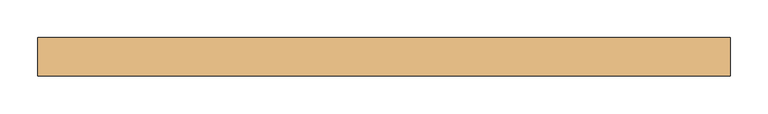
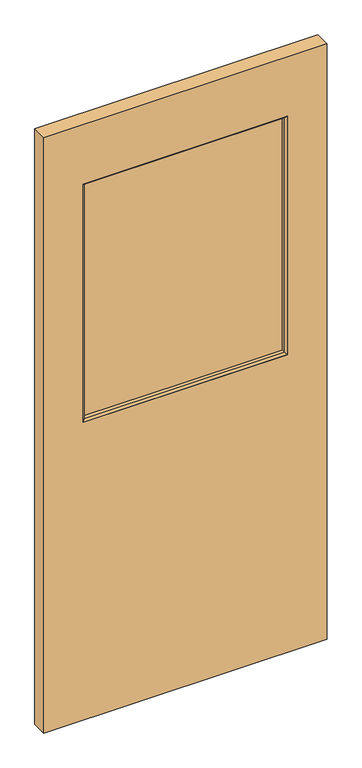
"""IFC4 building model written with IfcOpenShell, lengths in millimetres: door geometry, Planitar - Swap_Half Glass_Panel : Planitar - Swap_Half Glass_Panel."""

from ifc_helpers import new_model, si_unit, frame, origin, place, context, project, spatial, polyline, outline, extrude, faceted_brep, source, transform, mapped, element, save


def door_086945a9(model_context):
    return source(origin(), model_context, "Body", "SolidModel", [
        extrude(outline(polyline([(2032.0, 457.2), (2032.0, -457.2), (0.0, -457.2), (0.0, 457.2), (2032.0, 457.2)]), holes=[polyline([(1016.0, 330.2), (1016.0, -330.2), (1828.8, -330.2), (1828.8, 330.2), (1016.0, 330.2)])]), frame((0.0, -25.4, 0.0), z_axis=(0.0, 1.0, 0.0), x_axis=(0.0, 0.0, 1.0)), (0.0, 0.0, 1.0), 50.8),
        extrude(outline(polyline([(323.85, 6.35), (323.85, -6.35), (-323.85, -6.35), (-323.85, 6.35), (323.85, 6.35)])), frame((0.0, 0.0, 1022.35), z_axis=(0.0, 0.0, 1.0), x_axis=(1.0, 0.0, 0.0)), (0.0, 0.0, 1.0), 800.1),
        faceted_brep([(323.85, -19.05, 1022.35), (-323.85, -19.05, 1022.35), (-330.2, -25.4, 1016.0), (330.2, -25.4, 1016.0), (-323.85, -19.05, 1822.45), (-330.2, -25.4, 1828.8), (-330.2, 25.4, 1828.8), (-330.2, 25.4, 1016.0), (-323.85, 19.05, 1022.35), (-323.85, 19.05, 1822.45), (323.85, 19.05, 1022.35), (330.2, 25.4, 1016.0), (323.85, -19.05, 1822.45), (330.2, -25.4, 1828.8), (330.2, 25.4, 1828.8), (323.85, 19.05, 1822.45)], [[[0, 1, 2, 3]], [[1, 4, 5, 2]], [[2, 5, 6, 7]], [[1, 8, 9, 4]], [[7, 6, 9, 8]], [[10, 8, 1, 0]], [[11, 7, 8, 10]], [[3, 2, 7, 11]], [[12, 0, 3, 13]], [[13, 3, 11, 14]], [[15, 10, 0, 12]], [[14, 11, 10, 15]], [[4, 12, 13, 5]], [[9, 15, 12, 4]], [[6, 14, 15, 9]], [[5, 13, 14, 6]]]),
    ])


if __name__ == "__main__":
    model = new_model("IFC4")
    model_context = context("Model", 3, world=origin())
    ifc_project = project(units=[si_unit("LENGTHUNIT", "METRE", prefix="MILLI")], contexts=[model_context])
    site = spatial("IfcSite", under=ifc_project)
    building = spatial("IfcBuilding", under=site)
    placement = place(None, origin())
    door_shape = door_086945a9(model_context)
    element("IfcDoor", 1, ObjectType="Planitar - Swap_Half Glass_Panel : Planitar - Swap_Half Glass_Panel", at=placement, inside=building, context=model_context, shape_type="MappedRepresentation", body=[
        mapped(door_shape, transform((0.0, 0.0, 0.0), x_axis=(1.0, 0.0, 0.0), y_axis=(0.0, 1.0, 0.0), z_axis=(0.0, 0.0, 1.0))),
    ])
    save(model, "model.ifc")
